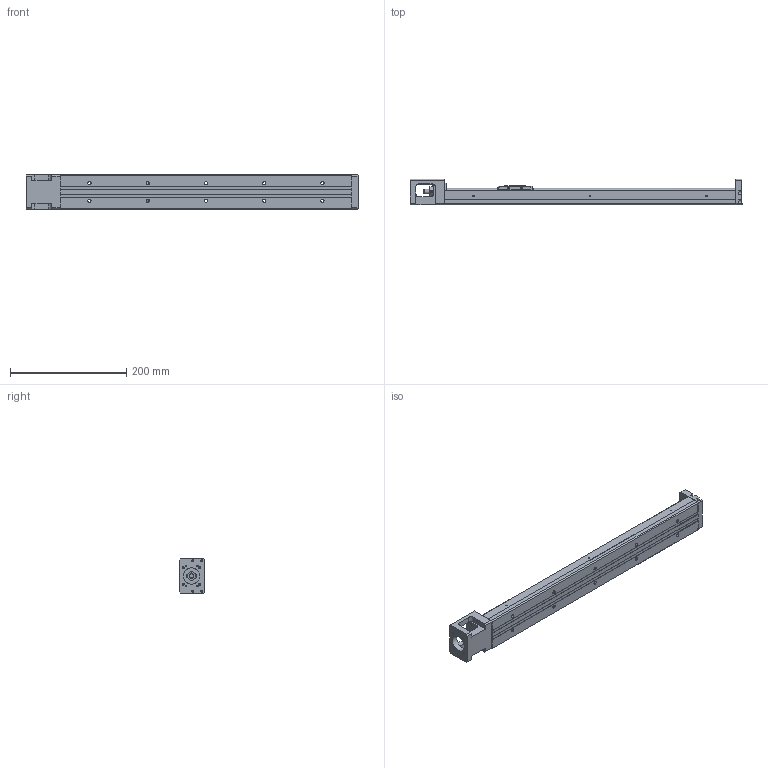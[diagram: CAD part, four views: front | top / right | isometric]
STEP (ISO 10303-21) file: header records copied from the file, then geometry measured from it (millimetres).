
FILE_DESCRIPTION(/* description */ (''),/* implementation_level */ '2;1');
FILE_NAME(/* name */ 'KP33S-500-D.stp',/* time_stamp */ '2020-06-04T18:17:00+08:00',/* author */ (''),/* organization */ (''),/* preprocessor_version */ 'ST-DEVELOPER v14',/* originating_system */ 'SIEMENS PLM Software NX 8.0',/* authorisation */ '');
FILE_SCHEMA (('AUTOMOTIVE_DESIGN { 1 0 10303 214 3 1 1 1 }'));
Length unit declared in the file: millimetre
Products named in the file (1): model1
Bounding box: 570 x 44.45 x 60 mm (x, y, z)
Volume: 597959.7 mm3; surface area: 169329.2 mm2
Topology: 5 solids, 14 shells, 640 faces, 1632 edges, 1073 vertices
Faces by surface type: plane 371, cylinder 184, bspline 31, cone 22, extrusion 21, torus 9, revolution 2
Full cylindrical faces by diameter (mm): 1.6 x3, 1.65 x4, 2.15 x3, 2.42 x4, 2.45 x4, 2.5 x12, 3.2 x4, 3.3 x4, 3.4 x4, 3.5 x10, 3.969 x1, 4 x4, 4.001 x1, 4.135 x2, 5.5 x10, 6 x4, 7.6 x1, 8 x5, 9.5 x10, 10.72 x3, 11.8 x2, 12 x6, 12.8 x1, 13 x2, 14 x1, 17.38 x3, 21.5 x1, 22 x2, 28 x1
Entity records: 34064 total; most frequent: CARTESIAN_POINT 16226, DIRECTION 2898, ORIENTED_EDGE 2834, EDGE_CURVE 1417, AXIS2_PLACEMENT_3D 1027, VERTEX_POINT 1003, EDGE_LOOP 904, VECTOR 842
